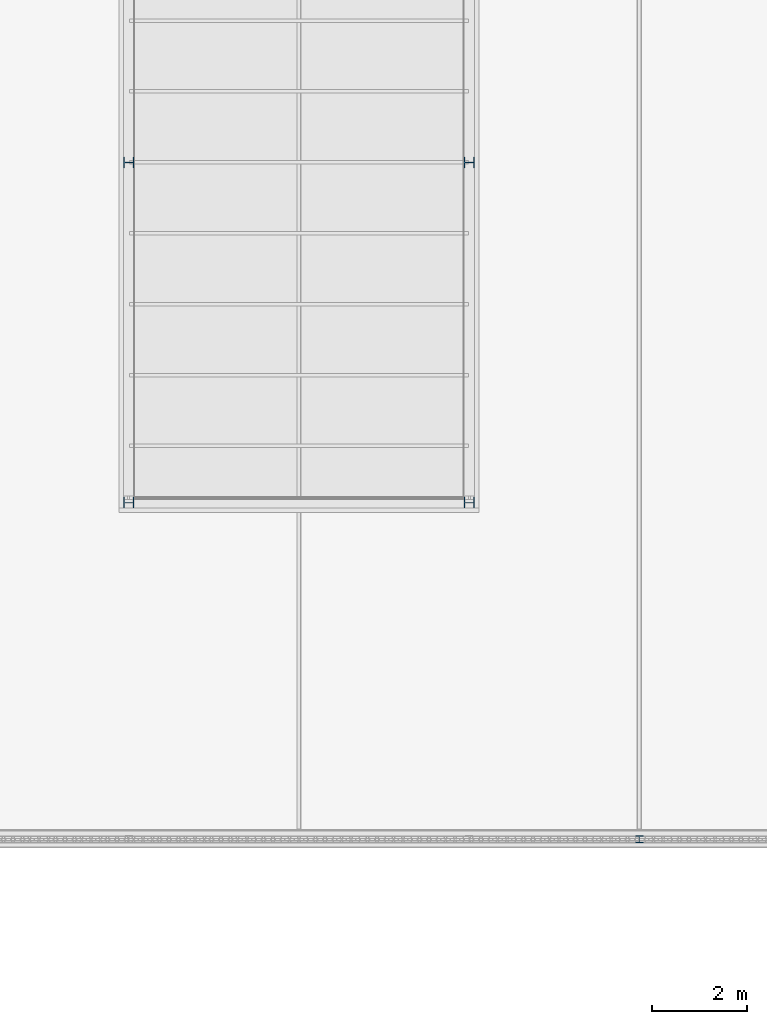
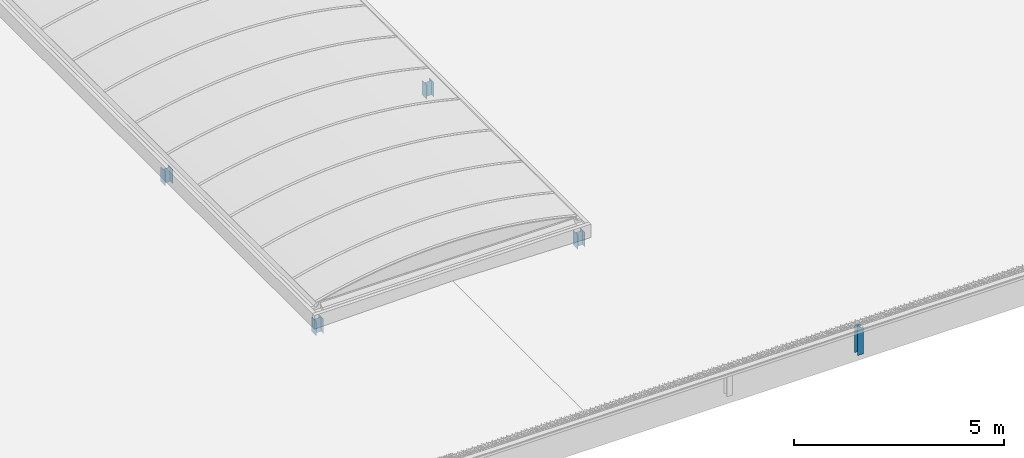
# One storey, part 19 of 81: 5 columns.
"""IFC2X3 building model written with IfcOpenShell, lengths in millimetres."""

import ifcopenshell
import ifcopenshell.guid

model = None  # the IFC model being written
_history = None  # IfcOwnerHistory: only IFC2X3 demands one
_inside = {}  # id of a spatial element -> (the spatial element, [elements in it])
_under = {}  # id of a project, library or spatial element -> (it, [spatial elements below it])
_declared = {}  # id of a project -> (the project, [libraries it declares])
_typed = {}  # id of a type object -> (the type object, [elements of that type])
_made_of = {}  # id of a material, layer set ... -> (it, [elements and type objects made of it])


def new_model(schema):
    """Start an empty IFC model of exactly this schema.

    Asked for "IFC4X3", IfcOpenShell would pick the latest addendum, in which some entities
    have other attributes; the version numbers below select the first issue.
    IFC2X3 requires an IfcOwnerHistory on every rooted entity: one is made here for all.
    """
    global model, _history
    if schema == "IFC4X3":
        model = ifcopenshell.file(schema_version=(4, 3, 0, 0))
    else:
        model = ifcopenshell.file(schema=schema)
    _inside.clear()
    _under.clear()
    _declared.clear()
    _typed.clear()
    _made_of.clear()
    _history = None
    if model.schema == "IFC2X3":
        org = make("IfcOrganization", Name="unknown")
        user = make(
            "IfcPersonAndOrganization",
            ThePerson=make("IfcPerson", FamilyName="unknown"),
            TheOrganization=org,
        )
        app = make(
            "IfcApplication",
            ApplicationDeveloper=org,
            Version="unknown",
            ApplicationFullName="unknown",
            ApplicationIdentifier="unknown",
        )
        _history = make(
            "IfcOwnerHistory",
            OwningUser=user,
            OwningApplication=app,
            ChangeAction="ADDED",
            CreationDate=0,
        )
    return model


def make(cls, **values):
    """One entity of the class cls with the attributes given. An attribute that is None is left unset."""
    return model.create_entity(
        cls, **{name: value for name, value in values.items() if value is not None}
    )


def entity(cls, *values):
    """Any entity or typed value of the class cls, its attributes in the order of the schema. None: left unset."""
    e = model.create_entity(cls)
    for i, value in enumerate(values):
        if value is not None:
            e[i] = value
    return e


def rooted(cls, **values):
    """An entity with a GlobalId (a new one), such as an element, a storey or a relation."""
    return make(cls, GlobalId=ifcopenshell.guid.new(), OwnerHistory=_history, **values)


def si_unit(unit_type, name, prefix=None):
    """IfcSIUnit, for example si_unit("LENGTHUNIT", "METRE", prefix="MILLI")."""
    return make("IfcSIUnit", UnitType=unit_type, Prefix=prefix, Name=name)


def converted_unit(unit_type, name, factor, base, dimensions=None, offset=None):
    """IfcConversionBasedUnit, such as the inch: factor (a typed value) times the base unit."""
    return make(
        "IfcConversionBasedUnit"
        if offset is None
        else "IfcConversionBasedUnitWithOffset",
        ConversionOffset=offset,
        Dimensions=None
        if dimensions is None
        else entity("IfcDimensionalExponents", *dimensions),
        UnitType=unit_type,
        Name=name,
        ConversionFactor=make(
            "IfcMeasureWithUnit", ValueComponent=factor, UnitComponent=base
        ),
    )


def derived_unit(unit_type, elements):
    """IfcDerivedUnit: a product of units, each with its exponent."""
    return make(
        "IfcDerivedUnit",
        Elements=[
            make("IfcDerivedUnitElement", Unit=unit, Exponent=power)
            for unit, power in elements
        ],
        UnitType=unit_type,
    )


def money_unit(currency):
    """IfcMonetaryUnit."""
    return make("IfcMonetaryUnit", Currency=currency)


def assignment(units):
    """IfcUnitAssignment: the units of a project."""
    return None if units is None else make("IfcUnitAssignment", Units=units)


def point(xyz):
    """IfcCartesianPoint."""
    return None if xyz is None else make("IfcCartesianPoint", Coordinates=xyz)


def direction(xyz):
    """IfcDirection."""
    return None if xyz is None else make("IfcDirection", DirectionRatios=xyz)


def frame(location, z_axis=None, x_axis=None):
    """IfcAxis2Placement3D, a coordinate frame: its origin and axes. An axis left out is left unset."""
    return make(
        "IfcAxis2Placement3D",
        Location=point(location),
        Axis=direction(z_axis),
        RefDirection=direction(x_axis),
    )


def origin_with_axes():
    """The frame at (0, 0, 0) with the z axis (0, 0, 1) and the x axis (1, 0, 0) written out."""
    return frame((0.0, 0.0, 0.0), z_axis=(0.0, 0.0, 1.0), x_axis=(1.0, 0.0, 0.0))


def place(relative_to, where):
    """IfcLocalPlacement: puts the frame where relative to a parent placement (None: the world)."""
    return make(
        "IfcLocalPlacement", PlacementRelTo=relative_to, RelativePlacement=where
    )


def context(
    kind, dimensions, precision=None, world=None, true_north=None, identifier=None
):
    """IfcGeometricRepresentationContext, for example the 3D "Model" context."""
    return make(
        "IfcGeometricRepresentationContext",
        ContextIdentifier=identifier,
        ContextType=kind,
        CoordinateSpaceDimension=dimensions,
        Precision=precision,
        WorldCoordinateSystem=world,
        TrueNorth=true_north,
    )


def subcontext(parent, identifier, kind, view, scale=None):
    """IfcGeometricRepresentationSubContext, for example "Body" below "Model"."""
    return make(
        "IfcGeometricRepresentationSubContext",
        ContextIdentifier=identifier,
        ContextType=kind,
        ParentContext=parent,
        TargetScale=scale,
        TargetView=view,
    )


def project(units=None, contexts=None):
    """IfcProject with its units and contexts."""
    return rooted(
        "IfcProject",
        Name="project",
        RepresentationContexts=contexts,
        UnitsInContext=assignment(units),
    )


def spatial(cls, under=None, at=None, **own):
    """A site, building, storey or space (cls), placed at a placement, below another one or the project."""
    s = rooted(cls, ObjectPlacement=at, **own)
    if under is not None:
        _under.setdefault(under.id(), (under, []))[1].append(s)
    return s


def faces_of(points, faces, orient=None, outer=None):
    """IfcFace entities. A face is a list of loops; a loop is a list of indices into points, from 0.

    orient and outer hold one flag for each loop. By default every Orientation is true, the
    first loop of a face is its IfcFaceOuterBound and the others are IfcFaceBound.
    """
    made = []
    for i, loops in enumerate(faces):
        bounds = []
        for j, loop in enumerate(loops):
            is_outer = j == 0 if outer is None else outer[i][j]
            bounds.append(
                make(
                    "IfcFaceOuterBound" if is_outer else "IfcFaceBound",
                    Bound=make("IfcPolyLoop", Polygon=[points[k] for k in loop]),
                    Orientation=True if orient is None else orient[i][j],
                )
            )
        made.append(make("IfcFace", Bounds=bounds))
    return made


def faceted_brep(points, faces, orient=None, outer=None, voids=None):
    """IfcFacetedBrep: a solid bounded by flat faces; with voids (closed shells), ...WithVoids."""
    shared = [point(p) for p in points]
    hull = make("IfcClosedShell", CfsFaces=faces_of(shared, faces, orient, outer))
    if voids is None:
        return make("IfcFacetedBrep", Outer=hull)
    return make(
        "IfcFacetedBrepWithVoids",
        Outer=hull,
        Voids=[
            make(cls, CfsFaces=faces_of(shared, fs, o, b)) for cls, fs, o, b in voids
        ],
    )


def shape(context_of_items, identifier, shape_type, items):
    """IfcShapeRepresentation: the items that make up one representation, for example the "Body"."""
    return make(
        "IfcShapeRepresentation",
        ContextOfItems=context_of_items,
        RepresentationIdentifier=identifier,
        RepresentationType=shape_type,
        Items=items,
    )


def material(Name=None, Category=None):
    """IfcMaterial."""
    return make("IfcMaterial", Name=Name, Category=Category)


def made_of(thing, what):
    """Note that an element or type object is made of a material, layer set ...; save() writes the relation."""
    if what is not None:
        _made_of.setdefault(what.id(), (what, []))[1].append(thing)
    return thing


def type_object(cls, material=None, **own):
    """A type object (cls), such as IfcWallType, which elements share."""
    return made_of(rooted(cls, **own), material)


def element(
    cls,
    number,
    at=None,
    inside=None,
    cuts=None,
    type_object=None,
    material=None,
    context=None,
    identifier="Body",
    shape_type=None,
    held_by="IfcProductDefinitionShape",
    body=None,
    shapes=None,
    **own,
):
    """One element of the class cls, such as IfcWall. Its Tag is "e" and its number.

    at: its placement. inside: the storey or other place that contains it. cuts: it is an
    opening in that element (IfcRelVoidsElement). A single representation is given by context,
    identifier, shape_type and body (its items); several are given by shapes. held_by: the class
    of the entity that holds the representations. save() writes the other relations.
    """
    e = rooted(cls, Tag="e%d" % number, ObjectPlacement=at, **own)
    if body is not None:
        shapes = [shape(context, identifier, shape_type, body)]
    if shapes is not None:
        e.Representation = make(held_by, Representations=shapes)
    if inside is not None:
        _inside.setdefault(inside.id(), (inside, []))[1].append(e)
    if cuts is not None:
        rooted(
            "IfcRelVoidsElement", RelatingBuildingElement=cuts, RelatedOpeningElement=e
        )
    if type_object is not None:
        _typed.setdefault(type_object.id(), (type_object, []))[1].append(e)
    return made_of(e, material)


def aggregate(whole, parts):
    """IfcRelAggregates: a whole, such as a stair, and the parts it consists of."""
    return rooted("IfcRelAggregates", RelatingObject=whole, RelatedObjects=parts)


def save(model, path):
    """Write the relations noted so far, then the file.

    IfcRelAggregates (storeys below a building ...), IfcRelContainedInSpatialStructure (elements
    in a storey), IfcRelDefinesByType, IfcRelAssociatesMaterial and IfcRelDeclares: one each for
    every whole, place, type object, material and project.
    """
    for whole, parts in _under.values():
        aggregate(whole, parts)
    for where, things in _inside.values():
        rooted(
            "IfcRelContainedInSpatialStructure",
            RelatedElements=things,
            RelatingStructure=where,
        )
    for kind, things in _typed.values():
        rooted("IfcRelDefinesByType", RelatedObjects=things, RelatingType=kind)
    for what, things in _made_of.values():
        rooted("IfcRelAssociatesMaterial", RelatedObjects=things, RelatingMaterial=what)
    for by, libraries in _declared.values():
        rooted("IfcRelDeclares", RelatingContext=by, RelatedDefinitions=libraries)
    model.write(path)


model = new_model("IFC2X3")

# Units and contexts
model_context = context("Model", 3, precision=0.01, world=origin_with_axes(), true_north=direction((0.0, 1.0)))
body_context = subcontext(model_context, "Body", "Model", "MODEL_VIEW")
ifc_project = project(units=[si_unit("LENGTHUNIT", "METRE", prefix="MILLI"), si_unit("AREAUNIT", "SQUARE_METRE"), si_unit("VOLUMEUNIT", "CUBIC_METRE"), converted_unit("PLANEANGLEUNIT", "DEGREE", entity("IfcPlaneAngleMeasure", 0.0174532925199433), si_unit("PLANEANGLEUNIT", "RADIAN"), dimensions=[0, 0, 0, 0, 0, 0, 0]), money_unit("EUR"), converted_unit("TIMEUNIT", "Year", entity("IfcTimeMeasure", 31557600.0), si_unit("TIMEUNIT", "SECOND"), dimensions=[0, 0, 1, 0, 0, 0, 0]), si_unit("MASSUNIT", "GRAM", prefix="KILO"), si_unit("THERMODYNAMICTEMPERATUREUNIT", "DEGREE_CELSIUS"), si_unit("LUMINOUSINTENSITYUNIT", "LUMEN"), si_unit("ENERGYUNIT", "JOULE", prefix="MEGA"), derived_unit("THERMALCONDUCTANCEUNIT", [(si_unit("POWERUNIT", "WATT"), 1), (si_unit("LENGTHUNIT", "METRE"), -1), (si_unit("THERMODYNAMICTEMPERATUREUNIT", "KELVIN"), -1)]), derived_unit("SPECIFICHEATCAPACITYUNIT", [(si_unit("ENERGYUNIT", "JOULE"), 1), (si_unit("MASSUNIT", "GRAM", prefix="KILO"), -1), (si_unit("THERMODYNAMICTEMPERATUREUNIT", "KELVIN"), -1)]), derived_unit("MASSDENSITYUNIT", [(si_unit("MASSUNIT", "GRAM", prefix="KILO"), 1), (si_unit("VOLUMEUNIT", "CUBIC_METRE"), -1)])], contexts=[model_context])

# Site, building, storey
site_placement = place(None, origin_with_axes())
site = spatial("IfcSite", under=ifc_project, at=site_placement, Name="Site", CompositionType="ELEMENT")
building_placement = place(site_placement, origin_with_axes())
building = spatial("IfcBuilding", under=site, at=building_placement, Name="Naam gebouw", CompositionType="ELEMENT")
storey_placement = place(building_placement, frame((0.0, 0.0, 15320.0), z_axis=(0.0, 0.0, 1.0), x_axis=(1.0, 0.0, 0.0)))
storey = spatial("IfcBuildingStorey", under=building, at=storey_placement, Name="01 dak", CompositionType="ELEMENT", Elevation=15320.0)

# Columns
ifc_material = material(Name="Metaal - Staal C")
column_type_1 = type_object("IfcColumnType", Name="HEA220 220 x 210", PredefinedType="COLUMN")
for number, where, z_axis, x_axis, name in (
    (1, (43300.00000000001, 37200.0, -70.00000000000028), (0.0, 0.0, 1.0), (-1.0, 0.0, 0.0), "HEA220"),
    (2, (50500.00000000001, 37200.0, -70.00000000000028), (0.0, 0.0, 1.0), (-1.0, 0.0, 0.0), "HEA220"),
    (3, (50500.00000000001, 44400.00000000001, -70.00000000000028), (0.0, 0.0, 1.0), (-1.0, 0.0, 0.0), "HEA220"),
    (4, (43300.00000000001, 44400.00000000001, -70.00000000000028), (0.0, 0.0, 1.0), (-1.0, 0.0, 0.0), "HEA220"),
):
    element("IfcColumn", number, at=place(storey_placement, frame(where, z_axis=z_axis, x_axis=x_axis)), inside=storey, type_object=column_type_1, material=ifc_material, Name=name, ObjectType="COLUMN", context=body_context, shape_type="Brep", body=[
        faceted_brep([(-104.9999999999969, -109.9999999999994, 419.9999999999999), (-104.9999999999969, -109.9999999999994, 0.0), (-94.0000000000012, -109.9999999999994, 0.0), (-94.0000000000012, -109.9999999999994, 419.9999999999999), (-104.9999999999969, 109.9999999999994, 419.9999999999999), (-104.9999999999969, 109.9999999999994, 0.0), (-94.0000000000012, 109.9999999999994, 0.0), (-94.0000000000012, 3.500000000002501, 0.0), (94.0000000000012, 3.500000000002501, 0.0), (94.0000000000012, 109.9999999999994, 0.0), (104.9999999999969, 109.9999999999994, 0.0), (104.9999999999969, -109.9999999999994, 0.0), (94.0000000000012, -109.9999999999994, 0.0), (94.0000000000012, -3.500000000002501, 0.0), (-94.0000000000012, -3.500000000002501, 0.0), (-94.0000000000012, -3.500000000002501, 419.9999999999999), (94.0000000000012, -3.500000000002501, 419.9999999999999), (94.0000000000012, -109.9999999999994, 419.9999999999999), (104.9999999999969, -109.9999999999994, 419.9999999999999), (104.9999999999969, 109.9999999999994, 419.9999999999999), (94.0000000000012, 109.9999999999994, 419.9999999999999), (94.0000000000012, 3.500000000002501, 419.9999999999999), (-94.0000000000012, 3.500000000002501, 419.9999999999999), (-94.0000000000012, 109.9999999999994, 419.9999999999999)], [[[0, 1, 2, 3]], [[4, 5, 1, 0]], [[2, 1, 5, 6, 7, 8, 9, 10, 11, 12, 13, 14]], [[3, 2, 14, 15]], [[4, 0, 3, 15, 16, 17, 18, 19, 20, 21, 22, 23]], [[23, 6, 5, 4]], [[22, 7, 6, 23]], [[21, 8, 7, 22]], [[20, 9, 8, 21]], [[19, 10, 9, 20]], [[18, 11, 10, 19]], [[17, 12, 11, 18]], [[16, 13, 12, 17]], [[15, 14, 13, 16]]]),
    ])
column_type_2 = type_object("IfcColumnType", Name="HEA160 160 x 152", PredefinedType="COLUMN")
column_placement = place(storey_placement, frame((54100.0, 30080.0, -138.9176451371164), z_axis=(0.0, 0.0, 1.0), x_axis=(-1.0, 0.0, 0.0)))
element("IfcColumn", 5, at=column_placement, inside=storey, type_object=column_type_2, material=ifc_material, Name="HEA160", ObjectType="COLUMN", context=body_context, shape_type="Brep", body=[
    faceted_brep([(-79.9999999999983, 76.00000000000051, 793.8782854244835), (-79.9999999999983, 76.00000000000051, 0.0), (-79.9999999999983, 67.00000000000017, 0.0), (-79.9999999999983, 67.00000000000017, 793.8782854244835), (79.9999999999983, 76.00000000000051, 793.8782854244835), (79.9999999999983, 76.00000000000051, 0.0), (79.9999999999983, 67.00000000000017, 0.0), (3.000000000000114, 67.00000000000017, 0.0), (3.000000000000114, -67.00000000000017, 0.0), (79.9999999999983, -67.00000000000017, 0.0), (79.9999999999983, -76.00000000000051, 0.0), (-79.9999999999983, -76.00000000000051, 0.0), (-79.9999999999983, -67.00000000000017, 0.0), (-3.000000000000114, -67.00000000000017, 0.0), (-3.000000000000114, 67.00000000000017, 0.0), (-3.000000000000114, 67.00000000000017, 793.8782854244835), (-3.000000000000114, -67.00000000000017, 793.8782854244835), (-79.9999999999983, -67.00000000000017, 793.8782854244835), (-79.9999999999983, -76.00000000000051, 793.8782854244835), (79.9999999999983, -76.00000000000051, 793.8782854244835), (79.9999999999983, -67.00000000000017, 793.8782854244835), (3.000000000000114, -67.00000000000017, 793.8782854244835), (3.000000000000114, 67.00000000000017, 793.8782854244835), (79.9999999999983, 67.00000000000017, 793.8782854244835)], [[[0, 1, 2, 3]], [[4, 5, 1, 0]], [[2, 1, 5, 6, 7, 8, 9, 10, 11, 12, 13, 14]], [[3, 2, 14, 15]], [[4, 0, 3, 15, 16, 17, 18, 19, 20, 21, 22, 23]], [[23, 6, 5, 4]], [[22, 7, 6, 23]], [[21, 8, 7, 22]], [[20, 9, 8, 21]], [[19, 10, 9, 20]], [[18, 11, 10, 19]], [[17, 12, 11, 18]], [[16, 13, 12, 17]], [[15, 14, 13, 16]]]),
])

save(model, "model.ifc")
